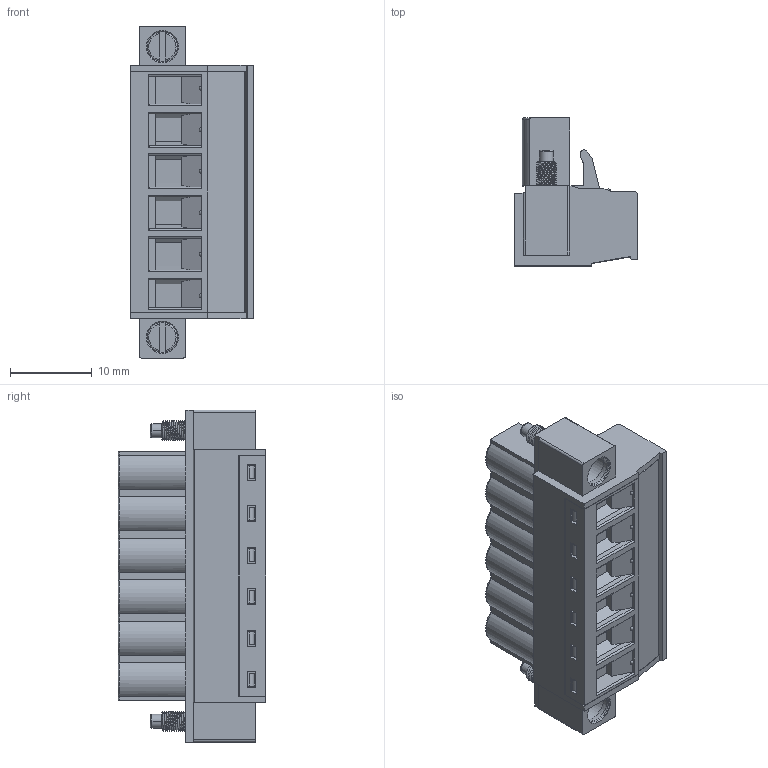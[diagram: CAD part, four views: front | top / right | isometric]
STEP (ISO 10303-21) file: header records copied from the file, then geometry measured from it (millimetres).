
FILE_DESCRIPTION(('Open CASCADE Model'),'2;1');
FILE_NAME('Open CASCADE Shape Model','2022-10-31T17:31:40',('Author'),( 'Open CASCADE'),'Open CASCADE STEP processor 6.5','Open CASCADE 6.5' ,'Unknown');
FILE_SCHEMA(('AUTOMOTIVE_DESIGN { 1 0 10303 214 1 1 1 1 }'));
Length unit declared in the file: millimetre
Products named in the file (901): CADSOFTTOOLS 3; CADSOFTTOOLS 3.1; CADSOFTTOOLS 3.2; CADSOFTTOOLS 3.3; CADSOFTTOOLS 3.4; CADSOFTTOOLS 3.5; CADSOFTTOOLS 3.6; CADSOFTTOOLS 3.7; CADSOFTTOOLS 3.8; CADSOFTTOOLS 3.9; CADSOFTTOOLS 3.10; CADSOFTTOOLS 3.11; CADSOFTTOOLS 3.12; CADSOFTTOOLS 3.13; CADSOFTTOOLS 3.14; CADSOFTTOOLS 3.15; CADSOFTTOOLS 3.16; CADSOFTTOOLS 3.17; CADSOFTTOOLS 3.18; CADSOFTTOOLS 3.19; CADSOFTTOOLS 3.20; CADSOFTTOOLS 3.21; CADSOFTTOOLS 3.22; CADSOFTTOOLS 3.23; CADSOFTTOOLS 3.24; CADSOFTTOOLS 3.25; CADSOFTTOOLS 3.26; CADSOFTTOOLS 3.27; CADSOFTTOOLS 3.28; CADSOFTTOOLS 3.29; CADSOFTTOOLS 3.30; CADSOFTTOOLS 3.31; CADSOFTTOOLS 3.32; CADSOFTTOOLS 3.33; CADSOFTTOOLS 3.34; CADSOFTTOOLS 3.35; CADSOFTTOOLS 3.36; CADSOFTTOOLS 3.37; CADSOFTTOOLS 3.38; CADSOFTTOOLS 3.39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
Assembly tree (900 placements, depth 2):
  CADSOFTTOOLS 3
    CADSOFTTOOLS 3.1
    CADSOFTTOOLS 3.2
    CADSOFTTOOLS 3.3
    CADSOFTTOOLS 3.4
    CADSOFTTOOLS 3.5
    CADSOFTTOOLS 3.6
    CADSOFTTOOLS 3.7
    CADSOFTTOOLS 3.8
    CADSOFTTOOLS 3.9
    CADSOFTTOOLS 3.10
    CADSOFTTOOLS 3.11
    CADSOFTTOOLS 3.12
    CADSOFTTOOLS 3.13
    CADSOFTTOOLS 3.14
    CADSOFTTOOLS 3.15
    CADSOFTTOOLS 3.16
    CADSOFTTOOLS 3.17
    CADSOFTTOOLS 3.18
    CADSOFTTOOLS 3.19
    CADSOFTTOOLS 3.20
    CADSOFTTOOLS 3.21
    CADSOFTTOOLS 3.22
    CADSOFTTOOLS 3.23
    CADSOFTTOOLS 3.24
    CADSOFTTOOLS 3.25
    CADSOFTTOOLS 3.26
    CADSOFTTOOLS 3.27
    CADSOFTTOOLS 3.28
    CADSOFTTOOLS 3.29
    CADSOFTTOOLS 3.30
    CADSOFTTOOLS 3.31
    CADSOFTTOOLS 3.32
    CADSOFTTOOLS 3.33
    CADSOFTTOOLS 3.34
    CADSOFTTOOLS 3.35
    CADSOFTTOOLS 3.36
    CADSOFTTOOLS 3.37
    CADSOFTTOOLS 3.38
    CADSOFTTOOLS 3.39
    CADSOFTTOOLS 3.40
    CADSOFTTOOLS 3.41
    CADSOFTTOOLS 3.42
    CADSOFTTOOLS 3.43
    CADSOFTTOOLS 3.44
    CADSOFTTOOLS 3.45
    CADSOFTTOOLS 3.46
    CADSOFTTOOLS 3.47
    CADSOFTTOOLS 3.48
    CADSOFTTOOLS 3.49
    CADSOFTTOOLS 3.50
    CADSOFTTOOLS 3.51
    CADSOFTTOOLS 3.52
    CADSOFTTOOLS 3.53
    CADSOFTTOOLS 3.54
    CADSOFTTOOLS 3.55
    CADSOFTTOOLS 3.56
    CADSOFTTOOLS 3.57
    CADSOFTTOOLS 3.58
    CADSOFTTOOLS 3.59
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Bounding box: 15.05 x 18.1 x 40.64 mm (x, y, z)
Surface area: 4935.8 mm2 (no closed solid volume)
Topology: 0 solids, 900 shells, 900 faces, 4950 edges, 4932 vertices
Faces by surface type: plane 539, cylinder 217, cone 64, torus 42, bspline 20, sphere 18
Entity records: 139258 total; most frequent: CARTESIAN_POINT 60489, DIRECTION 12109, LINE 6181, VECTOR 6181, ORIENTED_EDGE 4932, EDGE_CURVE 4932, VERTEX_POINT 4932, SURFACE_CURVE 4932
